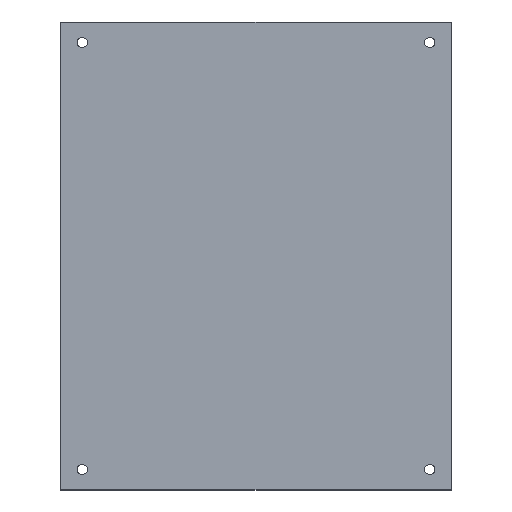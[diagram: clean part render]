
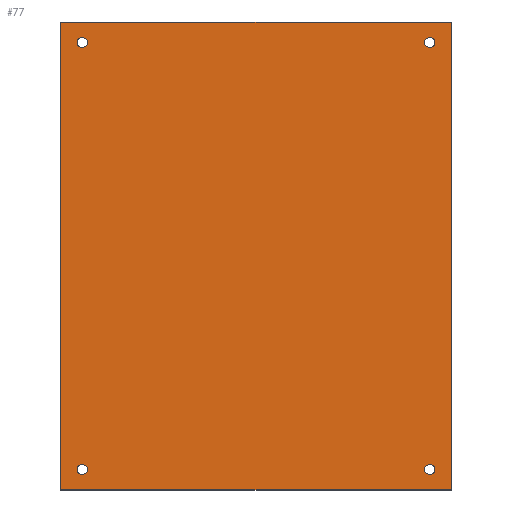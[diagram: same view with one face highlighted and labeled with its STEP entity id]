
A CAD part, top view. The second image highlights one B-rep face of the part: STEP entity #77.
In plain terms, the highlighted planar face has unit normal (0, 0, 1).
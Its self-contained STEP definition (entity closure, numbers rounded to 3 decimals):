
#51=FACE_BOUND('',#101,.T.);
#52=FACE_BOUND('',#102,.T.);
#53=FACE_BOUND('',#103,.T.);
#54=FACE_BOUND('',#104,.T.);
#55=FACE_BOUND('',#105,.T.);
#68=CIRCLE('',#224,2.25);
#69=CIRCLE('',#225,2.25);
#70=CIRCLE('',#226,2.25);
#71=CIRCLE('',#227,2.25);
#77=ADVANCED_FACE('',(#51,#52,#53,#54,#55),#87,.T.);
#87=PLANE('',#228);
#101=EDGE_LOOP('',(#138));
#102=EDGE_LOOP('',(#139));
#103=EDGE_LOOP('',(#140));
#104=EDGE_LOOP('',(#141));
#105=EDGE_LOOP('',(#142,#143,#144,#145));
#138=ORIENTED_EDGE('',*,*,#186,.T.);
#139=ORIENTED_EDGE('',*,*,#187,.T.);
#140=ORIENTED_EDGE('',*,*,#188,.T.);
#141=ORIENTED_EDGE('',*,*,#189,.T.);
#142=ORIENTED_EDGE('',*,*,#170,.F.);
#143=ORIENTED_EDGE('',*,*,#174,.F.);
#144=ORIENTED_EDGE('',*,*,#177,.F.);
#145=ORIENTED_EDGE('',*,*,#180,.F.);
#154=VERTEX_POINT('',#285);
#155=VERTEX_POINT('',#286);
#158=VERTEX_POINT('',#294);
#160=VERTEX_POINT('',#300);
#166=VERTEX_POINT('',#318);
#167=VERTEX_POINT('',#320);
#168=VERTEX_POINT('',#322);
#169=VERTEX_POINT('',#324);
#170=EDGE_CURVE('',#154,#155,#190,.T.);
#174=EDGE_CURVE('',#158,#154,#194,.T.);
#177=EDGE_CURVE('',#160,#158,#197,.T.);
#180=EDGE_CURVE('',#155,#160,#200,.T.);
#186=EDGE_CURVE('',#166,#166,#68,.T.);
#187=EDGE_CURVE('',#167,#167,#69,.T.);
#188=EDGE_CURVE('',#168,#168,#70,.T.);
#189=EDGE_CURVE('',#169,#169,#71,.T.);
#190=LINE('',#284,#202);
#194=LINE('',#293,#206);
#197=LINE('',#299,#209);
#200=LINE('',#305,#212);
#202=VECTOR('',#235,1.);
#206=VECTOR('',#241,1.);
#209=VECTOR('',#246,1.);
#212=VECTOR('',#251,1.);
#224=AXIS2_PLACEMENT_3D('',#317,#265,#266);
#225=AXIS2_PLACEMENT_3D('',#319,#267,#268);
#226=AXIS2_PLACEMENT_3D('',#321,#269,#270);
#227=AXIS2_PLACEMENT_3D('',#323,#271,#272);
#228=AXIS2_PLACEMENT_3D('',#325,#273,#274);
#235=DIRECTION('',(0.,1.,0.));
#241=DIRECTION('',(-1.,0.,0.));
#246=DIRECTION('',(0.,-1.,0.));
#251=DIRECTION('',(1.,0.,0.));
#265=DIRECTION('',(0.,0.,-1.));
#266=DIRECTION('',(-1.,0.,0.));
#267=DIRECTION('',(0.,0.,-1.));
#268=DIRECTION('',(-1.,0.,0.));
#269=DIRECTION('',(0.,0.,-1.));
#270=DIRECTION('',(-1.,0.,0.));
#271=DIRECTION('',(0.,0.,-1.));
#272=DIRECTION('',(-1.,0.,0.));
#273=DIRECTION('',(0.,0.,1.));
#274=DIRECTION('',(1.,0.,0.));
#284=CARTESIAN_POINT('',(-86.,103.,0.));
#285=CARTESIAN_POINT('',(-86.,-103.,0.));
#286=CARTESIAN_POINT('',(-86.,103.,0.));
#293=CARTESIAN_POINT('',(-86.,-103.,0.));
#294=CARTESIAN_POINT('',(86.,-103.,0.));
#299=CARTESIAN_POINT('',(86.,-103.,0.));
#300=CARTESIAN_POINT('',(86.,103.,0.));
#305=CARTESIAN_POINT('',(86.,103.,0.));
#317=CARTESIAN_POINT('',(76.5,94.,0.));
#318=CARTESIAN_POINT('',(74.25,94.,0.));
#319=CARTESIAN_POINT('',(76.5,-94.,0.));
#320=CARTESIAN_POINT('',(74.25,-94.,0.));
#321=CARTESIAN_POINT('',(-76.5,94.,0.));
#322=CARTESIAN_POINT('',(-78.75,94.,0.));
#323=CARTESIAN_POINT('',(-76.5,-94.,0.));
#324=CARTESIAN_POINT('',(-78.75,-94.,0.));
#325=CARTESIAN_POINT('',(0.,0.,0.));
